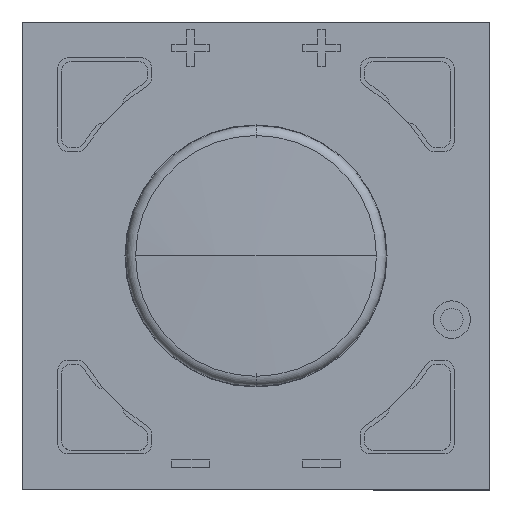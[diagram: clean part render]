
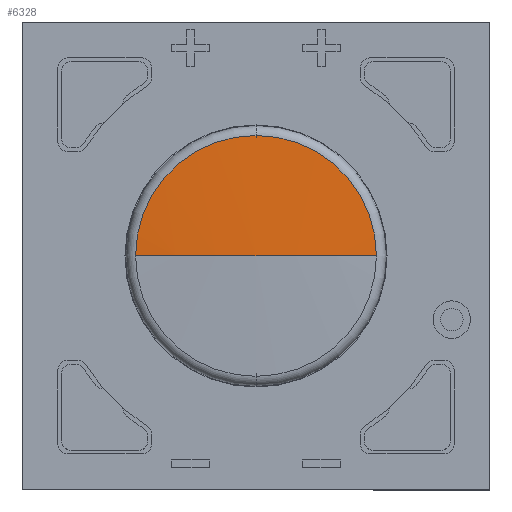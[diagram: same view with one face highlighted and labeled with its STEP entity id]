
A CAD part, top view. The second image highlights one B-rep face of the part: STEP entity #6328.
In plain terms, the highlighted spherical face has radius 51.783 mm.
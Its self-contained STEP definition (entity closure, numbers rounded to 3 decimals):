
#188 = CARTESIAN_POINT ( 'NONE',  ( 0., 0.846, 0. ) ) ;
#270 = CARTESIAN_POINT ( 'NONE',  ( 0., 0.846, -3.217 ) ) ;
#299 = DIRECTION ( 'NONE',  ( 0., 0., -1. ) ) ;
#677 = CARTESIAN_POINT ( 'NONE',  ( 3.217, 0.846, 0. ) ) ;
#781 = DIRECTION ( 'NONE',  ( 0., 0., -1. ) ) ;
#1193 = AXIS2_PLACEMENT_3D ( 'NONE', #2547, #6637, #3133 ) ;
#1596 = FACE_OUTER_BOUND ( 'NONE', #4269, .T. ) ;
#1994 = CARTESIAN_POINT ( 'NONE',  ( 0., -50.837, 0. ) ) ;
#2506 = EDGE_CURVE ( 'NONE', #4906, #3362, #6625, .T. ) ;
#2547 = CARTESIAN_POINT ( 'NONE',  ( 0., 0.846, 0. ) ) ;
#2580 = DIRECTION ( 'NONE',  ( 1., 0., 0. ) ) ;
#2614 = DIRECTION ( 'NONE',  ( 1., 0., 0. ) ) ;
#2735 = CARTESIAN_POINT ( 'NONE',  ( 0., 0.946, 0. ) ) ;
#3085 = CIRCLE ( 'NONE', #5894, 51.783 ) ;
#3133 = DIRECTION ( 'NONE',  ( 0., 0., -1. ) ) ;
#3260 = CIRCLE ( 'NONE', #5111, 3.217 ) ;
#3362 = VERTEX_POINT ( 'NONE', #270 ) ;
#3394 = EDGE_CURVE ( 'NONE', #6136, #3827, #7371, .T. ) ;
#3827 = VERTEX_POINT ( 'NONE', #677 ) ;
#3838 = CARTESIAN_POINT ( 'NONE',  ( 0., -50.837, 0. ) ) ;
#3949 = ORIENTED_EDGE ( 'NONE', *, *, #5940, .F. ) ;
#4269 = EDGE_LOOP ( 'NONE', ( #6931, #6735, #3949, #7163 ) ) ;
#4299 = DIRECTION ( 'NONE',  ( 0., -1., 0. ) ) ;
#4405 = DIRECTION ( 'NONE',  ( -1., 0., 0. ) ) ;
#4906 = VERTEX_POINT ( 'NONE', #7447 ) ;
#4932 = DIRECTION ( 'NONE',  ( 0., 0., 1. ) ) ;
#5111 = AXIS2_PLACEMENT_3D ( 'NONE', #188, #4299, #781 ) ;
#5212 = AXIS2_PLACEMENT_3D ( 'NONE', #6109, #4932, #2614 ) ;
#5894 = AXIS2_PLACEMENT_3D ( 'NONE', #1994, #6082, #2580 ) ;
#5940 = EDGE_CURVE ( 'NONE', #3362, #3827, #3260, .T. ) ;
#5986 = EDGE_CURVE ( 'NONE', #6136, #4906, #3085, .T. ) ;
#6082 = DIRECTION ( 'NONE',  ( 0., 0., 1. ) ) ;
#6109 = CARTESIAN_POINT ( 'NONE',  ( 0., -50.837, 0. ) ) ;
#6136 = VERTEX_POINT ( 'NONE', #2735 ) ;
#6328 = ADVANCED_FACE ( 'NONE', ( #1596 ), #6929, .T. ) ;
#6625 = CIRCLE ( 'NONE', #1193, 3.217 ) ;
#6637 = DIRECTION ( 'NONE',  ( 0., -1., 0. ) ) ;
#6735 = ORIENTED_EDGE ( 'NONE', *, *, #3394, .T. ) ;
#6793 = AXIS2_PLACEMENT_3D ( 'NONE', #3838, #299, #4405 ) ;
#6929 = SPHERICAL_SURFACE ( 'NONE', #5212, 51.783 ) ;
#6931 = ORIENTED_EDGE ( 'NONE', *, *, #5986, .F. ) ;
#7163 = ORIENTED_EDGE ( 'NONE', *, *, #2506, .F. ) ;
#7371 = CIRCLE ( 'NONE', #6793, 51.783 ) ;
#7447 = CARTESIAN_POINT ( 'NONE',  ( -3.217, 0.846, 0. ) ) ;
